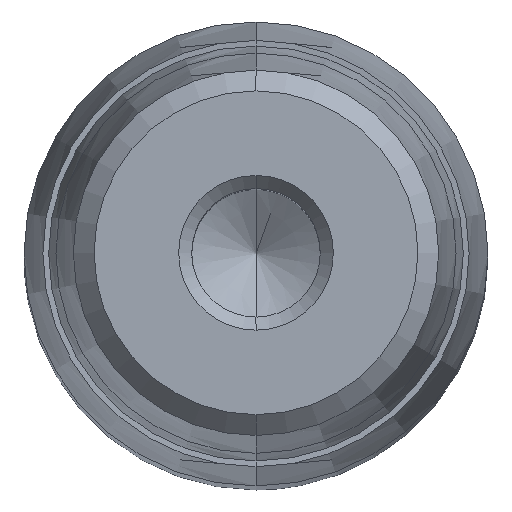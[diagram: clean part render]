
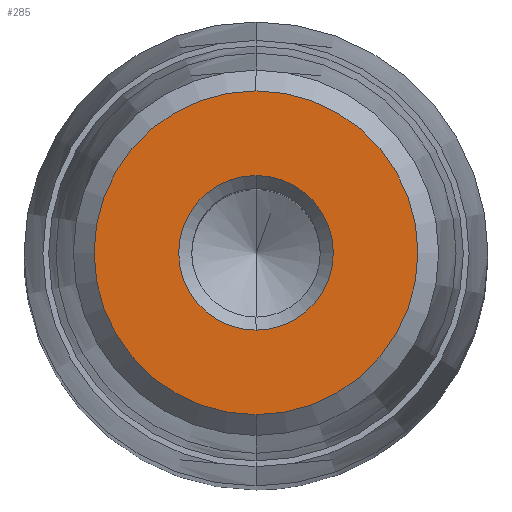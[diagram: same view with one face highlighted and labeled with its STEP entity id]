
A CAD part, top view. The second image highlights one B-rep face of the part: STEP entity #285.
In plain terms, the highlighted planar face has unit normal (0, 0, 1).
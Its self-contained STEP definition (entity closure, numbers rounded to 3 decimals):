
#164=CARTESIAN_POINT('Axis2P3D Location',(0.,0.,35.)) ;
#168=CARTESIAN_POINT('Vertex',(4.,0.,35.)) ;
#170=CARTESIAN_POINT('Vertex',(0.,-4.,35.)) ;
#173=CARTESIAN_POINT('Axis2P3D Location',(0.,0.,35.)) ;
#177=CARTESIAN_POINT('Vertex',(0.,4.,35.)) ;
#228=CARTESIAN_POINT('Axis2P3D Location',(0.,4.,35.)) ;
#233=CARTESIAN_POINT('Axis2P3D Location',(0.,0.,35.)) ;
#237=CARTESIAN_POINT('Vertex',(0.,8.375,35.)) ;
#239=CARTESIAN_POINT('Vertex',(8.375,0.,35.)) ;
#242=CARTESIAN_POINT('Axis2P3D Location',(0.,0.,35.)) ;
#246=CARTESIAN_POINT('Vertex',(-8.375,0.,35.)) ;
#249=CARTESIAN_POINT('Axis2P3D Location',(0.,0.,35.)) ;
#253=CARTESIAN_POINT('Vertex',(0.,-8.375,35.)) ;
#256=CARTESIAN_POINT('Axis2P3D Location',(0.,0.,35.)) ;
#267=CARTESIAN_POINT('Axis2P3D Location',(0.,0.,35.)) ;
#271=CARTESIAN_POINT('Vertex',(-4.,0.,35.)) ;
#274=CARTESIAN_POINT('Axis2P3D Location',(0.,0.,35.)) ;
#165=DIRECTION('Axis2P3D Direction',(0.,0.,1.)) ;
#174=DIRECTION('Axis2P3D Direction',(0.,0.,1.)) ;
#229=DIRECTION('Axis2P3D Direction',(-0.,0.,-1.)) ;
#230=DIRECTION('Axis2P3D XDirection',(0.,1.,0.)) ;
#234=DIRECTION('Axis2P3D Direction',(-0.,0.,-1.)) ;
#243=DIRECTION('Axis2P3D Direction',(-0.,0.,-1.)) ;
#250=DIRECTION('Axis2P3D Direction',(-0.,0.,-1.)) ;
#257=DIRECTION('Axis2P3D Direction',(-0.,0.,-1.)) ;
#268=DIRECTION('Axis2P3D Direction',(-0.,0.,-1.)) ;
#275=DIRECTION('Axis2P3D Direction',(-0.,0.,-1.)) ;
#166=AXIS2_PLACEMENT_3D('Circle Axis2P3D',#164,#165,$) ;
#175=AXIS2_PLACEMENT_3D('Circle Axis2P3D',#173,#174,$) ;
#231=AXIS2_PLACEMENT_3D('Plane Axis2P3D',#228,#229,#230) ;
#235=AXIS2_PLACEMENT_3D('Circle Axis2P3D',#233,#234,$) ;
#244=AXIS2_PLACEMENT_3D('Circle Axis2P3D',#242,#243,$) ;
#251=AXIS2_PLACEMENT_3D('Circle Axis2P3D',#249,#250,$) ;
#258=AXIS2_PLACEMENT_3D('Circle Axis2P3D',#256,#257,$) ;
#269=AXIS2_PLACEMENT_3D('Circle Axis2P3D',#267,#268,$) ;
#276=AXIS2_PLACEMENT_3D('Circle Axis2P3D',#274,#275,$) ;
#262=ORIENTED_EDGE('',*,*,#241,.F.) ;
#263=ORIENTED_EDGE('',*,*,#248,.F.) ;
#264=ORIENTED_EDGE('',*,*,#255,.F.) ;
#265=ORIENTED_EDGE('',*,*,#260,.F.) ;
#280=ORIENTED_EDGE('',*,*,#172,.T.) ;
#281=ORIENTED_EDGE('',*,*,#273,.T.) ;
#282=ORIENTED_EDGE('',*,*,#278,.T.) ;
#283=ORIENTED_EDGE('',*,*,#179,.T.) ;
#284=FACE_BOUND('',#279,.T.) ;
#285=ADVANCED_FACE('722-24x140x163',(#266,#284),#232,.F.) ;
#167=CIRCLE('generated circle',#166,4.) ;
#176=CIRCLE('generated circle',#175,4.) ;
#236=CIRCLE('generated circle',#235,8.375) ;
#245=CIRCLE('generated circle',#244,8.375) ;
#252=CIRCLE('generated circle',#251,8.375) ;
#259=CIRCLE('generated circle',#258,8.375) ;
#270=CIRCLE('generated circle',#269,4.) ;
#277=CIRCLE('generated circle',#276,4.) ;
#172=EDGE_CURVE('',#169,#171,#167,.F.) ;
#179=EDGE_CURVE('',#178,#169,#176,.F.) ;
#241=EDGE_CURVE('',#238,#240,#236,.T.) ;
#248=EDGE_CURVE('',#247,#238,#245,.T.) ;
#255=EDGE_CURVE('',#254,#247,#252,.T.) ;
#260=EDGE_CURVE('',#240,#254,#259,.T.) ;
#273=EDGE_CURVE('',#171,#272,#270,.T.) ;
#278=EDGE_CURVE('',#272,#178,#277,.T.) ;
#261=EDGE_LOOP('',(#262,#263,#264,#265)) ;
#279=EDGE_LOOP('',(#280,#281,#282,#283)) ;
#266=FACE_OUTER_BOUND('',#261,.T.) ;
#232=PLANE('Plane',#231) ;
#169=VERTEX_POINT('',#168) ;
#171=VERTEX_POINT('',#170) ;
#178=VERTEX_POINT('',#177) ;
#238=VERTEX_POINT('',#237) ;
#240=VERTEX_POINT('',#239) ;
#247=VERTEX_POINT('',#246) ;
#254=VERTEX_POINT('',#253) ;
#272=VERTEX_POINT('',#271) ;
